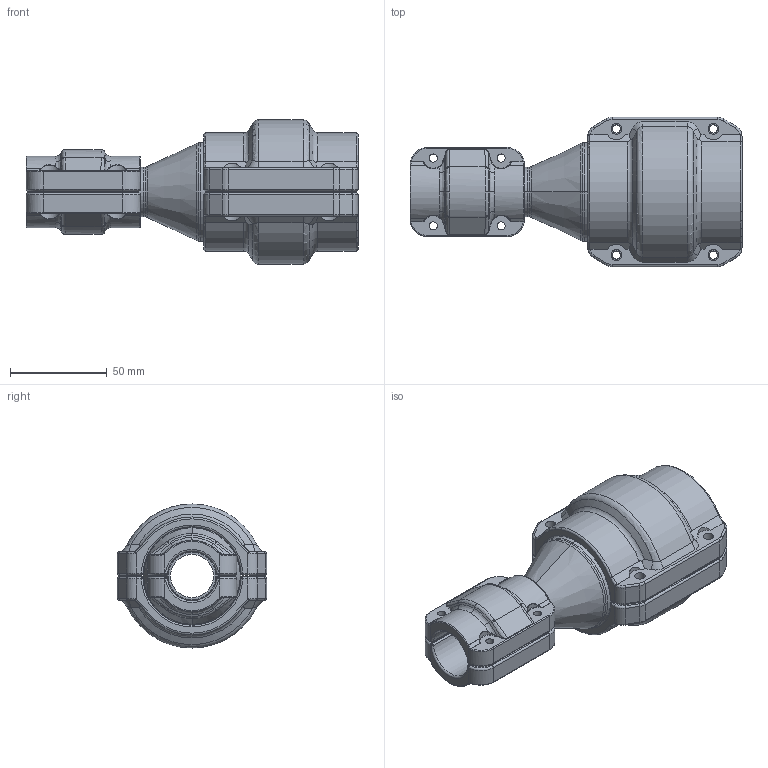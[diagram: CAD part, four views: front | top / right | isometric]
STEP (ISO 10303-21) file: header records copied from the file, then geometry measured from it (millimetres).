
FILE_DESCRIPTION((''),'2;1');
FILE_NAME('2016522199_ASM','2017-05-12T',('Administrator'),(''),'PRO/ENGINEER BY PARAMETRIC TECHNOLOGY CORPORATION, 2009360','PRO/ENGINEER BY PARAMETRIC TECHNOLOGY CORPORATION, 2009360','');
FILE_SCHEMA(('AUTOMOTIVE_DESIGN_CC2 { 1 2 10303 214 -1 1 5 2 }'));
Length unit declared in the file: millimetre
Products named in the file (8): 2016522100; 201520020000_23; 201520020001_10; 2015200200_ASM; 201550020001; 201550020000; 2015500200_ASM; 2016522199_ASM
Assembly tree (7 placements, depth 3):
  2016522199_ASM
    2016522100
    2015200200_ASM
      201520020000_23
      201520020001_10
    2015500200_ASM
      201550020001
      201550020000
Bounding box: 171.15 x 77 x 74.3 mm (x, y, z)
Volume: 215511.6 mm3; surface area: 79529.7 mm2
Topology: 5 solids, 5 shells, 564 faces, 1344 edges, 790 vertices
Faces by surface type: cylinder 196, bspline 170, torus 108, plane 66, sphere 16, cone 8
Entity records: 26514 total; most frequent: CARTESIAN_POINT 10381, ORIENTED_EDGE 2688, DIRECTION 2266, PRESENTATION_STYLE_ASSIGNMENT 1349, STYLED_ITEM 1349, CURVE_STYLE 1344, EDGE_CURVE 1344, AXIS2_PLACEMENT_3D 959
